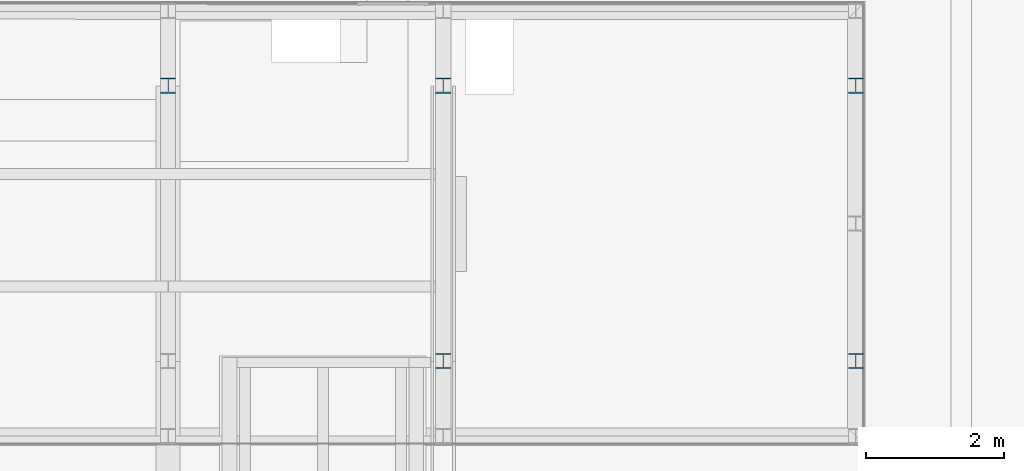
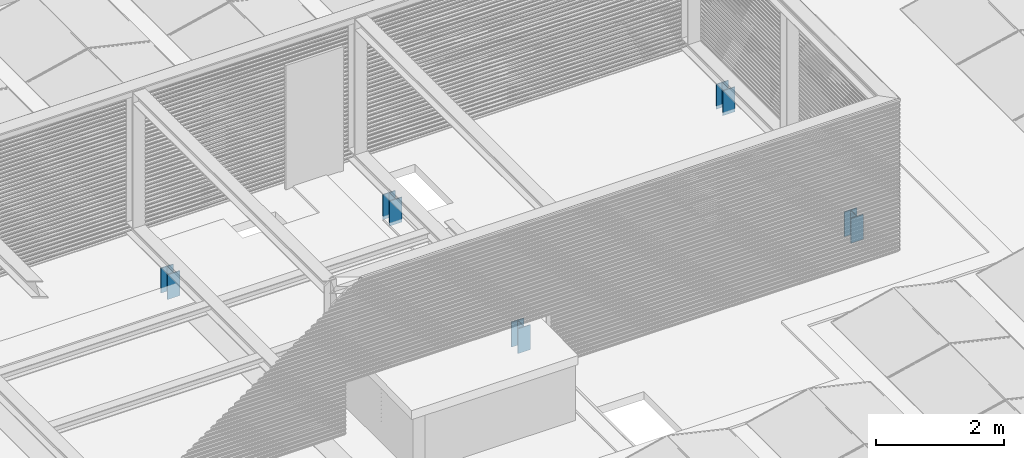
# One storey, part 4 of 63: 5 columns.
"""IFC2X3 building model written with IfcOpenShell, lengths in millimetres."""

from ifc_helpers import new_model, entity, si_unit, converted_unit, derived_unit, money_unit, direction, frame, origin_with_axes, place, context, subcontext, project, spatial, faceted_brep, material, type_object, element, save


model = new_model("IFC2X3")

# Units and contexts
model_context = context("Model", 3, precision=0.01, world=origin_with_axes(), true_north=direction((0.0, 1.0)))
body_context = subcontext(model_context, "Body", "Model", "MODEL_VIEW")
ifc_project = project(units=[si_unit("LENGTHUNIT", "METRE", prefix="MILLI"), si_unit("AREAUNIT", "SQUARE_METRE"), si_unit("VOLUMEUNIT", "CUBIC_METRE"), converted_unit("PLANEANGLEUNIT", "DEGREE", entity("IfcPlaneAngleMeasure", 0.0174532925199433), si_unit("PLANEANGLEUNIT", "RADIAN"), dimensions=[0, 0, 0, 0, 0, 0, 0]), money_unit("EUR"), converted_unit("TIMEUNIT", "Year", entity("IfcTimeMeasure", 31557600.0), si_unit("TIMEUNIT", "SECOND"), dimensions=[0, 0, 1, 0, 0, 0, 0]), si_unit("MASSUNIT", "GRAM", prefix="KILO"), si_unit("THERMODYNAMICTEMPERATUREUNIT", "DEGREE_CELSIUS"), si_unit("LUMINOUSINTENSITYUNIT", "LUMEN"), si_unit("ENERGYUNIT", "JOULE", prefix="MEGA"), derived_unit("THERMALCONDUCTANCEUNIT", [(si_unit("POWERUNIT", "WATT"), 1), (si_unit("LENGTHUNIT", "METRE"), -1), (si_unit("THERMODYNAMICTEMPERATUREUNIT", "KELVIN"), -1)]), derived_unit("SPECIFICHEATCAPACITYUNIT", [(si_unit("ENERGYUNIT", "JOULE"), 1), (si_unit("MASSUNIT", "GRAM", prefix="KILO"), -1), (si_unit("THERMODYNAMICTEMPERATUREUNIT", "KELVIN"), -1)]), derived_unit("MASSDENSITYUNIT", [(si_unit("MASSUNIT", "GRAM", prefix="KILO"), 1), (si_unit("VOLUMEUNIT", "CUBIC_METRE"), -1)])], contexts=[model_context])

# Site, building, storey
site_placement = place(None, origin_with_axes())
site = spatial("IfcSite", under=ifc_project, at=site_placement, Name="<site naam>", CompositionType="ELEMENT")
building_placement = place(site_placement, origin_with_axes())
building = spatial("IfcBuilding", under=site, at=building_placement, Name="<Naam gebouw>", CompositionType="ELEMENT")
storey_placement = place(building_placement, frame((0.0, 0.0, 12770.0), z_axis=(0.0, 0.0, 1.0), x_axis=(1.0, 0.0, 0.0)))
storey = spatial("IfcBuildingStorey", under=building, at=storey_placement, Name="04 4e verdieping", CompositionType="ELEMENT", Elevation=12770.0)

# Columns
ifc_material = material(Name="staal C")
column_type = type_object("IfcColumnType", Name="HEB220 220 x 220", PredefinedType="COLUMN")
for number, where, z_axis, x_axis, name in (
    (1, (52000.00007868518, 11999.99997390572, -134.6146107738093), (0.0, 0.0, 1.0), (1.0, 0.0, 0.0), "28_Kolom_HEB220"),
    (2, (52000.00007868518, 7994.453824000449, -134.6146107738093), (0.0, 0.0, 1.0), (1.0, 0.0, 0.0), "28_Kolom_HEB220"),
    (3, (48000.00000000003, 12000.00000000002, -134.6146107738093), (0.0, 0.0, 1.0), (1.0, 0.0, 0.0), "28_Kolom_HEB220"),
    (4, (58000.00000000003, 12000.00000000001, -134.6146107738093), (0.0, 0.0, 1.0), (1.0, 0.0, 0.0), "28_Kolom_HEB220"),
    (5, (58000.00000000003, 7994.453850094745, -134.6146107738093), (0.0, 0.0, 1.0), (1.0, 0.0, 0.0), "28_Kolom_HEB220"),
):
    element("IfcColumn", number, at=place(storey_placement, frame(where, z_axis=z_axis, x_axis=x_axis)), inside=storey, type_object=column_type, material=ifc_material, Name=name, ObjectType="COLUMN", context=body_context, shape_type="Brep", body=[
        faceted_brep([(-109.9999999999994, 115.5000000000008, 474.266043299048), (-109.9999999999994, 115.5000000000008, 0.0), (-109.9999999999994, 99.50000000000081, 0.0), (-109.9999999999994, 99.50000000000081, 474.266043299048), (109.9999999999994, 115.5000000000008, 474.266043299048), (109.9999999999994, 115.5000000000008, 0.0), (109.9999999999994, 99.50000000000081, 0.0), (4.750000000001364, 99.50000000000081, 0.0), (4.750000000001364, -88.4999999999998, 0.0), (109.9999999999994, -88.4999999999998, 0.0), (109.9999999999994, -104.4999999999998, 0.0), (-109.9999999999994, -104.4999999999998, 0.0), (-109.9999999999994, -88.4999999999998, 0.0), (-4.750000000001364, -88.4999999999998, 0.0), (-4.750000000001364, 99.50000000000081, 0.0), (-4.750000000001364, 99.50000000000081, 474.266043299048), (-4.750000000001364, -88.4999999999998, 474.266043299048), (-109.9999999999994, -88.4999999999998, 474.266043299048), (-109.9999999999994, -104.4999999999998, 474.266043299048), (109.9999999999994, -104.4999999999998, 474.266043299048), (109.9999999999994, -88.4999999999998, 474.266043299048), (4.750000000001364, -88.4999999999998, 474.266043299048), (4.750000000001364, 99.50000000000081, 474.266043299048), (109.9999999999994, 99.50000000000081, 474.266043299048)], [[[0, 1, 2, 3]], [[4, 5, 1, 0]], [[2, 1, 5, 6, 7, 8, 9, 10, 11, 12, 13, 14]], [[3, 2, 14, 15]], [[4, 0, 3, 15, 16, 17, 18, 19, 20, 21, 22, 23]], [[23, 6, 5, 4]], [[22, 7, 6, 23]], [[21, 8, 7, 22]], [[20, 9, 8, 21]], [[19, 10, 9, 20]], [[18, 11, 10, 19]], [[17, 12, 11, 18]], [[16, 13, 12, 17]], [[15, 14, 13, 16]]]),
    ])

save(model, "model.ifc")
